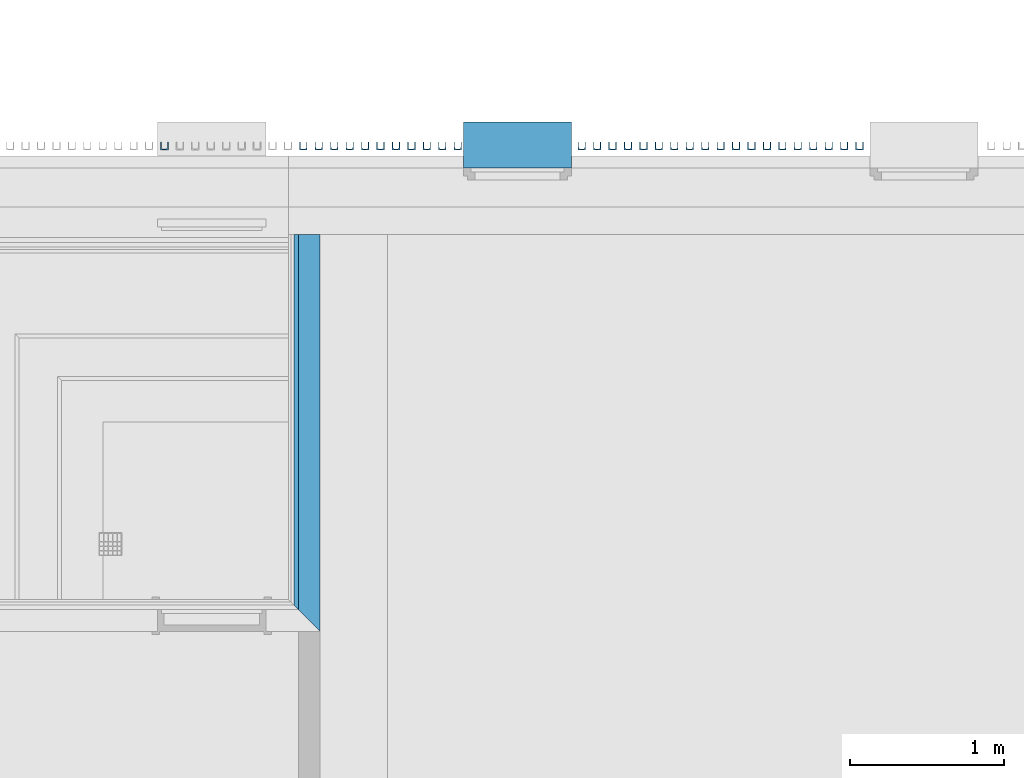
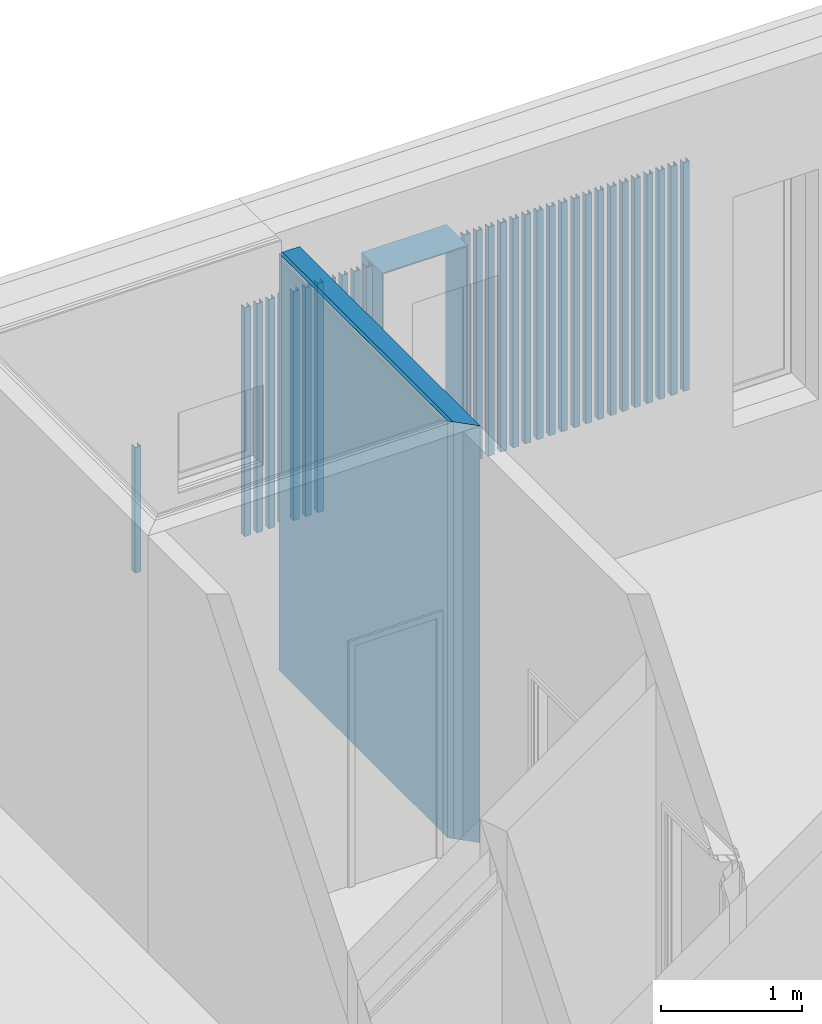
# One storey, part 28 of 100: 32 discrete accessories, 2 building element parts, 1 element without a shape of its own.
"""IFC2X3 building model written with IfcOpenShell, lengths in millimetres."""

import ifcopenshell
import ifcopenshell.guid

model = None  # the IFC model being written
_history = None  # IfcOwnerHistory: only IFC2X3 demands one
_inside = {}  # id of a spatial element -> (the spatial element, [elements in it])
_under = {}  # id of a project, library or spatial element -> (it, [spatial elements below it])
_declared = {}  # id of a project -> (the project, [libraries it declares])
_typed = {}  # id of a type object -> (the type object, [elements of that type])
_made_of = {}  # id of a material, layer set ... -> (it, [elements and type objects made of it])


def new_model(schema):
    """Start an empty IFC model of exactly this schema.

    Asked for "IFC4X3", IfcOpenShell would pick the latest addendum, in which some entities
    have other attributes; the version numbers below select the first issue.
    IFC2X3 requires an IfcOwnerHistory on every rooted entity: one is made here for all.
    """
    global model, _history
    if schema == "IFC4X3":
        model = ifcopenshell.file(schema_version=(4, 3, 0, 0))
    else:
        model = ifcopenshell.file(schema=schema)
    _inside.clear()
    _under.clear()
    _declared.clear()
    _typed.clear()
    _made_of.clear()
    _history = None
    if model.schema == "IFC2X3":
        org = make("IfcOrganization", Name="unknown")
        user = make(
            "IfcPersonAndOrganization",
            ThePerson=make("IfcPerson", FamilyName="unknown"),
            TheOrganization=org,
        )
        app = make(
            "IfcApplication",
            ApplicationDeveloper=org,
            Version="unknown",
            ApplicationFullName="unknown",
            ApplicationIdentifier="unknown",
        )
        _history = make(
            "IfcOwnerHistory",
            OwningUser=user,
            OwningApplication=app,
            ChangeAction="ADDED",
            CreationDate=0,
        )
    return model


def make(cls, **values):
    """One entity of the class cls with the attributes given. An attribute that is None is left unset."""
    return model.create_entity(
        cls, **{name: value for name, value in values.items() if value is not None}
    )


def entity(cls, *values):
    """Any entity or typed value of the class cls, its attributes in the order of the schema. None: left unset."""
    e = model.create_entity(cls)
    for i, value in enumerate(values):
        if value is not None:
            e[i] = value
    return e


def rooted(cls, **values):
    """An entity with a GlobalId (a new one), such as an element, a storey or a relation."""
    return make(cls, GlobalId=ifcopenshell.guid.new(), OwnerHistory=_history, **values)


def si_unit(unit_type, name, prefix=None):
    """IfcSIUnit, for example si_unit("LENGTHUNIT", "METRE", prefix="MILLI")."""
    return make("IfcSIUnit", UnitType=unit_type, Prefix=prefix, Name=name)


def converted_unit(unit_type, name, factor, base, dimensions=None, offset=None):
    """IfcConversionBasedUnit, such as the inch: factor (a typed value) times the base unit."""
    return make(
        "IfcConversionBasedUnit"
        if offset is None
        else "IfcConversionBasedUnitWithOffset",
        ConversionOffset=offset,
        Dimensions=None
        if dimensions is None
        else entity("IfcDimensionalExponents", *dimensions),
        UnitType=unit_type,
        Name=name,
        ConversionFactor=make(
            "IfcMeasureWithUnit", ValueComponent=factor, UnitComponent=base
        ),
    )


def derived_unit(unit_type, elements):
    """IfcDerivedUnit: a product of units, each with its exponent."""
    return make(
        "IfcDerivedUnit",
        Elements=[
            make("IfcDerivedUnitElement", Unit=unit, Exponent=power)
            for unit, power in elements
        ],
        UnitType=unit_type,
    )


def money_unit(currency):
    """IfcMonetaryUnit."""
    return make("IfcMonetaryUnit", Currency=currency)


def assignment(units):
    """IfcUnitAssignment: the units of a project."""
    return None if units is None else make("IfcUnitAssignment", Units=units)


def point(xyz):
    """IfcCartesianPoint."""
    return None if xyz is None else make("IfcCartesianPoint", Coordinates=xyz)


def direction(xyz):
    """IfcDirection."""
    return None if xyz is None else make("IfcDirection", DirectionRatios=xyz)


def frame(location, z_axis=None, x_axis=None):
    """IfcAxis2Placement3D, a coordinate frame: its origin and axes. An axis left out is left unset."""
    return make(
        "IfcAxis2Placement3D",
        Location=point(location),
        Axis=direction(z_axis),
        RefDirection=direction(x_axis),
    )


def origin_with_axes():
    """The frame at (0, 0, 0) with the z axis (0, 0, 1) and the x axis (1, 0, 0) written out."""
    return frame((0.0, 0.0, 0.0), z_axis=(0.0, 0.0, 1.0), x_axis=(1.0, 0.0, 0.0))


def place(relative_to, where):
    """IfcLocalPlacement: puts the frame where relative to a parent placement (None: the world)."""
    return make(
        "IfcLocalPlacement", PlacementRelTo=relative_to, RelativePlacement=where
    )


def context(
    kind, dimensions, precision=None, world=None, true_north=None, identifier=None
):
    """IfcGeometricRepresentationContext, for example the 3D "Model" context."""
    return make(
        "IfcGeometricRepresentationContext",
        ContextIdentifier=identifier,
        ContextType=kind,
        CoordinateSpaceDimension=dimensions,
        Precision=precision,
        WorldCoordinateSystem=world,
        TrueNorth=true_north,
    )


def subcontext(parent, identifier, kind, view, scale=None):
    """IfcGeometricRepresentationSubContext, for example "Body" below "Model"."""
    return make(
        "IfcGeometricRepresentationSubContext",
        ContextIdentifier=identifier,
        ContextType=kind,
        ParentContext=parent,
        TargetScale=scale,
        TargetView=view,
    )


def project(units=None, contexts=None):
    """IfcProject with its units and contexts."""
    return rooted(
        "IfcProject",
        Name="project",
        RepresentationContexts=contexts,
        UnitsInContext=assignment(units),
    )


def spatial(cls, under=None, at=None, **own):
    """A site, building, storey or space (cls), placed at a placement, below another one or the project."""
    s = rooted(cls, ObjectPlacement=at, **own)
    if under is not None:
        _under.setdefault(under.id(), (under, []))[1].append(s)
    return s


def polyline(points):
    """IfcPolyline through the points."""
    return make("IfcPolyline", Points=[point(p) for p in points])


def outline(outer, holes=None, kind="AREA"):
    """IfcArbitraryClosedProfileDef: a profile drawn as a closed curve; with holes, ...WithVoids."""
    if holes is None:
        return make("IfcArbitraryClosedProfileDef", ProfileType=kind, OuterCurve=outer)
    return make(
        "IfcArbitraryProfileDefWithVoids",
        ProfileType=kind,
        OuterCurve=outer,
        InnerCurves=holes,
    )


def extrude(swept, where, along, depth):
    """IfcExtrudedAreaSolid: the profile swept, set in the frame where, extruded along a direction by depth."""
    return make(
        "IfcExtrudedAreaSolid",
        SweptArea=swept,
        Position=where,
        ExtrudedDirection=direction(along),
        Depth=depth,
    )


def faces_of(points, faces, orient=None, outer=None):
    """IfcFace entities. A face is a list of loops; a loop is a list of indices into points, from 0.

    orient and outer hold one flag for each loop. By default every Orientation is true, the
    first loop of a face is its IfcFaceOuterBound and the others are IfcFaceBound.
    """
    made = []
    for i, loops in enumerate(faces):
        bounds = []
        for j, loop in enumerate(loops):
            is_outer = j == 0 if outer is None else outer[i][j]
            bounds.append(
                make(
                    "IfcFaceOuterBound" if is_outer else "IfcFaceBound",
                    Bound=make("IfcPolyLoop", Polygon=[points[k] for k in loop]),
                    Orientation=True if orient is None else orient[i][j],
                )
            )
        made.append(make("IfcFace", Bounds=bounds))
    return made


def faceted_brep(points, faces, orient=None, outer=None, voids=None):
    """IfcFacetedBrep: a solid bounded by flat faces; with voids (closed shells), ...WithVoids."""
    shared = [point(p) for p in points]
    hull = make("IfcClosedShell", CfsFaces=faces_of(shared, faces, orient, outer))
    if voids is None:
        return make("IfcFacetedBrep", Outer=hull)
    return make(
        "IfcFacetedBrepWithVoids",
        Outer=hull,
        Voids=[
            make(cls, CfsFaces=faces_of(shared, fs, o, b)) for cls, fs, o, b in voids
        ],
    )


def shape(context_of_items, identifier, shape_type, items):
    """IfcShapeRepresentation: the items that make up one representation, for example the "Body"."""
    return make(
        "IfcShapeRepresentation",
        ContextOfItems=context_of_items,
        RepresentationIdentifier=identifier,
        RepresentationType=shape_type,
        Items=items,
    )


def source(mapping_origin, context_of_items, identifier, shape_type, items):
    """IfcRepresentationMap: a shape defined once, which mapped items show again and again."""
    return make(
        "IfcRepresentationMap",
        MappingOrigin=mapping_origin,
        MappedRepresentation=shape(context_of_items, identifier, shape_type, items),
    )


def transform(
    local_origin,
    x_axis=None,
    y_axis=None,
    z_axis=None,
    scale=None,
    scale2=None,
    scale3=None,
    uniform=True,
):
    """IfcCartesianTransformationOperator3D, or its non-uniform kind. x_axis, y_axis, z_axis: its Axis1, 2, 3."""
    if uniform:
        return make(
            "IfcCartesianTransformationOperator3D",
            Axis1=direction(x_axis),
            Axis2=direction(y_axis),
            LocalOrigin=point(local_origin),
            Scale=scale,
            Axis3=direction(z_axis),
        )
    return make(
        "IfcCartesianTransformationOperator3DnonUniform",
        Axis1=direction(x_axis),
        Axis2=direction(y_axis),
        LocalOrigin=point(local_origin),
        Scale=scale,
        Axis3=direction(z_axis),
        Scale2=scale2,
        Scale3=scale3,
    )


def mapped(mapping_source, mapping_target):
    """IfcMappedItem: shows the shape of a source again, moved by a transform."""
    return make(
        "IfcMappedItem", MappingSource=mapping_source, MappingTarget=mapping_target
    )


def material(Name=None, Category=None):
    """IfcMaterial."""
    return make("IfcMaterial", Name=Name, Category=Category)


def made_of(thing, what):
    """Note that an element or type object is made of a material, layer set ...; save() writes the relation."""
    if what is not None:
        _made_of.setdefault(what.id(), (what, []))[1].append(thing)
    return thing


def type_object(cls, material=None, **own):
    """A type object (cls), such as IfcWallType, which elements share."""
    return made_of(rooted(cls, **own), material)


def element(
    cls,
    number,
    at=None,
    inside=None,
    cuts=None,
    type_object=None,
    material=None,
    context=None,
    identifier="Body",
    shape_type=None,
    held_by="IfcProductDefinitionShape",
    body=None,
    shapes=None,
    **own,
):
    """One element of the class cls, such as IfcWall. Its Tag is "e" and its number.

    at: its placement. inside: the storey or other place that contains it. cuts: it is an
    opening in that element (IfcRelVoidsElement). A single representation is given by context,
    identifier, shape_type and body (its items); several are given by shapes. held_by: the class
    of the entity that holds the representations. save() writes the other relations.
    """
    e = rooted(cls, Tag="e%d" % number, ObjectPlacement=at, **own)
    if body is not None:
        shapes = [shape(context, identifier, shape_type, body)]
    if shapes is not None:
        e.Representation = make(held_by, Representations=shapes)
    if inside is not None:
        _inside.setdefault(inside.id(), (inside, []))[1].append(e)
    if cuts is not None:
        rooted(
            "IfcRelVoidsElement", RelatingBuildingElement=cuts, RelatedOpeningElement=e
        )
    if type_object is not None:
        _typed.setdefault(type_object.id(), (type_object, []))[1].append(e)
    return made_of(e, material)


def aggregate(whole, parts):
    """IfcRelAggregates: a whole, such as a stair, and the parts it consists of."""
    return rooted("IfcRelAggregates", RelatingObject=whole, RelatedObjects=parts)


def save(model, path):
    """Write the relations noted so far, then the file.

    IfcRelAggregates (storeys below a building ...), IfcRelContainedInSpatialStructure (elements
    in a storey), IfcRelDefinesByType, IfcRelAssociatesMaterial and IfcRelDeclares: one each for
    every whole, place, type object, material and project.
    """
    for whole, parts in _under.values():
        aggregate(whole, parts)
    for where, things in _inside.values():
        rooted(
            "IfcRelContainedInSpatialStructure",
            RelatedElements=things,
            RelatingStructure=where,
        )
    for kind, things in _typed.values():
        rooted("IfcRelDefinesByType", RelatedObjects=things, RelatingType=kind)
    for what, things in _made_of.values():
        rooted("IfcRelAssociatesMaterial", RelatedObjects=things, RelatingMaterial=what)
    for by, libraries in _declared.values():
        rooted("IfcRelDeclares", RelatingContext=by, RelatedDefinitions=libraries)
    model.write(path)


model = new_model("IFC2X3")

# Units and contexts
model_context = context("Model", 3, precision=0.01, world=origin_with_axes(), true_north=direction((0.0, 1.0)))
body_context = subcontext(model_context, "Body", "Model", "MODEL_VIEW")
ifc_project = project(units=[si_unit("LENGTHUNIT", "METRE", prefix="MILLI"), si_unit("AREAUNIT", "SQUARE_METRE"), si_unit("VOLUMEUNIT", "CUBIC_METRE"), converted_unit("PLANEANGLEUNIT", "DEGREE", entity("IfcPlaneAngleMeasure", 0.0174532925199), si_unit("PLANEANGLEUNIT", "RADIAN"), dimensions=[0, 0, 0, 0, 0, 0, 0]), si_unit("SOLIDANGLEUNIT", "STERADIAN"), money_unit("EUR"), converted_unit("TIMEUNIT", "Year", entity("IfcTimeMeasure", 31556926.0), si_unit("TIMEUNIT", "SECOND"), dimensions=[0, 0, 1, 0, 0, 0, 0]), si_unit("MASSUNIT", "GRAM", prefix="KILO"), si_unit("THERMODYNAMICTEMPERATUREUNIT", "DEGREE_CELSIUS"), si_unit("LUMINOUSINTENSITYUNIT", "LUMEN"), si_unit("ENERGYUNIT", "JOULE", prefix="MEGA"), derived_unit("THERMALCONDUCTANCEUNIT", [(si_unit("POWERUNIT", "WATT"), 1), (si_unit("LENGTHUNIT", "METRE"), -1), (si_unit("THERMODYNAMICTEMPERATUREUNIT", "KELVIN"), -1)]), derived_unit("SPECIFICHEATCAPACITYUNIT", [(si_unit("ENERGYUNIT", "JOULE"), 1), (si_unit("MASSUNIT", "GRAM", prefix="KILO"), -1), (si_unit("THERMODYNAMICTEMPERATUREUNIT", "KELVIN"), -1)]), derived_unit("MASSDENSITYUNIT", [(si_unit("MASSUNIT", "GRAM", prefix="KILO"), 1), (si_unit("VOLUMEUNIT", "CUBIC_METRE"), -1)])], contexts=[model_context])

# Site, building, storey
site_placement = place(None, origin_with_axes())
site = spatial("IfcSite", under=ifc_project, at=site_placement, Name="Politse- ja Piirivalveameti ning Päästeameti ühishoone", CompositionType="ELEMENT")
building_placement = place(site_placement, origin_with_axes())
building = spatial("IfcBuilding", under=site, at=building_placement, Name="Politse- ja Piirivalveameti ning Päästeameti ühishoone", CompositionType="ELEMENT")
storey_placement = place(building_placement, frame((0.0, 0.0, 3800.0), z_axis=(0.0, 0.0, 1.0), x_axis=(1.0, 0.0, 0.0)))
storey = spatial("IfcBuildingStorey", under=building, at=storey_placement, Name="Teine korrus", CompositionType="ELEMENT", Elevation=3800.0)

# Discrete accessories
ifc_material_1 = material(Name="SV-01_Krohv - Kips")
discrete_accessory_type_1 = type_object("IfcDiscreteAccessoryType", Name="Architrave 01 23")
shared_shape_1 = source(origin_with_axes(), body_context, "Body", "Brep", [
    faceted_brep([(350.0, 0.0, -10.0), (350.0, -300.182356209, -10.0), (-350.0, -300.182356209, -10.0), (-350.0, 0.0, -10.0), (340.0, 0.0, 0.0), (340.0, -300.182356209, 0.0), (-340.0, -300.182356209, 0.0), (-340.0, 0.0, 0.0)], [[[0, 1, 2, 3]], [[4, 5, 1, 0]], [[1, 5, 6, 2]], [[3, 2, 6, 7]], [[0, 3, 7, 4]], [[7, 6, 5, 4]]]),
    faceted_brep([(-350.0, 0.0, -10.0), (-350.0, -300.182356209, -10.0), (-350.0, -300.182356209, 1990.0), (-350.0, 0.0, 1990.0), (-340.0, 0.0, 0.0), (-340.0, -300.182356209, 0.0), (-340.0, -300.182356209, 1980.0), (-340.0, 0.0, 1980.0)], [[[0, 1, 2, 3]], [[4, 5, 1, 0]], [[1, 5, 6, 2]], [[3, 2, 6, 7]], [[0, 3, 7, 4]], [[7, 6, 5, 4]]]),
    faceted_brep([(-350.0, 0.0, 1990.0), (-350.0, -300.182356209, 1990.0), (350.0, -300.182356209, 1990.0), (350.0, 0.0, 1990.0), (-340.0, 0.0, 1980.0), (-340.0, -300.182356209, 1980.0), (340.0, -300.182356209, 1980.0), (340.0, 0.0, 1980.0)], [[[0, 1, 2, 3]], [[4, 5, 1, 0]], [[1, 5, 6, 2]], [[3, 2, 6, 7]], [[0, 3, 7, 4]], [[7, 6, 5, 4]]]),
    faceted_brep([(350.0, 0.0, 1990.0), (350.0, -300.182356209, 1990.0), (350.0, -300.182356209, -10.0), (350.0, 0.0, -10.0), (340.0, 0.0, 1980.0), (340.0, -300.182356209, 1980.0), (340.0, -300.182356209, 0.0), (340.0, 0.0, 0.0)], [[[0, 1, 2, 3]], [[4, 5, 1, 0]], [[1, 5, 6, 2]], [[3, 2, 6, 7]], [[0, 3, 7, 4]], [[7, 6, 5, 4]]]),
])
discrete_accessory_1_placement = place(storey_placement, frame((47051.9647298, 21429.9520134, 810.0), z_axis=(0.0, 0.0, 1.0), x_axis=(-1.0, 0.0, 0.0)))
element("IfcDiscreteAccessory", 1, at=discrete_accessory_1_placement, inside=storey, type_object=discrete_accessory_type_1, material=ifc_material_1, Name="AKNARAAM 01", context=body_context, shape_type="MappedRepresentation", body=[
    mapped(shared_shape_1, transform((0.0, 0.0, 0.0))),
])
ifc_material_2 = material(Name="ET-05_Teras")
discrete_accessory_type_2 = type_object("IfcDiscreteAccessoryType", Name="UAP Column 23")
shared_shape_2 = source(origin_with_axes(), body_context, "Body", "Brep", [
    faceted_brep([(-25.0, -25.0, 0.0), (-25.0, -25.0, 1990.0), (-25.0, -20.0, 1990.0), (-25.0, -20.0, 0.0), (25.0, -25.0, 0.0), (25.0, -25.0, 1990.0), (25.0, 25.0, 1990.0), (-25.0, 25.0, 1990.0), (-25.0, 20.0, 1990.0), (8.5, 20.0, 1990.0), (14.25, 18.4592921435, 1990.0), (18.4592921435, 14.25, 1990.0), (20.0, 8.5, 1990.0), (20.0, -8.5, 1990.0), (18.4592921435, -14.25, 1990.0), (14.25, -18.4592921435, 1990.0), (8.5, -20.0, 1990.0), (8.5, -20.0, 0.0), (14.25, -18.4592921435, 0.0), (18.4592921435, -14.25, 0.0), (20.0, -8.5, 0.0), (20.0, 8.5, 0.0), (18.4592921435, 14.25, 0.0), (14.25, 18.4592921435, 0.0), (8.5, 20.0, 0.0), (-25.0, 20.0, 0.0), (-25.0, 25.0, 0.0), (25.0, 25.0, 0.0)], [[[0, 1, 2, 3]], [[4, 5, 1, 0]], [[1, 5, 6, 7, 8, 9, 10, 11, 12, 13, 14, 15, 16, 2]], [[3, 2, 16, 17]], [[0, 3, 17, 18, 19, 20, 21, 22, 23, 24, 25, 26, 27, 4]], [[27, 6, 5, 4]], [[26, 7, 6, 27]], [[25, 8, 7, 26]], [[24, 9, 8, 25]], [[23, 10, 9, 24]], [[22, 11, 10, 23]], [[21, 12, 11, 22]], [[20, 13, 12, 21]], [[19, 14, 13, 20]], [[18, 15, 14, 19]], [[17, 16, 15, 18]]]),
])
for number, where, z_axis, x_axis in (
    (2, (48967.9647265, 21574.5962075, 810.000049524), (0.0, 0.0, 1.0), (1.30049800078e-07, -1.0, 0.0)),
    (3, (49067.9647265, 21574.5962205, 810.000049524), (0.0, 0.0, 1.0), (1.30049800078e-07, -1.0, 0.0)),
    (4, (49167.9647265, 21574.5962336, 810.000049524), (0.0, 0.0, 1.0), (1.30049800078e-07, -1.0, 0.0)),
    (5, (48567.9647265, 21574.5961555, 810.000049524), (0.0, 0.0, 1.0), (1.30049800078e-07, -1.0, 0.0)),
    (6, (48667.9647265, 21574.5961685, 810.000049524), (0.0, 0.0, 1.0), (1.30049800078e-07, -1.0, 0.0)),
    (7, (48767.9647265, 21574.5961815, 810.000049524), (0.0, 0.0, 1.0), (1.30049800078e-07, -1.0, 0.0)),
    (8, (48867.9647265, 21574.5961945, 810.000049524), (0.0, 0.0, 1.0), (1.30049800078e-07, -1.0, 0.0)),
    (9, (48267.9647265, 21574.5961165, 810.000049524), (0.0, 0.0, 1.0), (1.30049800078e-07, -1.0, 0.0)),
    (10, (48367.9647265, 21574.5961295, 810.000049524), (0.0, 0.0, 1.0), (1.30049800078e-07, -1.0, 0.0)),
    (11, (48467.9647265, 21574.5961425, 810.000049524), (0.0, 0.0, 1.0), (1.30049800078e-07, -1.0, 0.0)),
    (12, (47967.9647265, 21574.5960775, 810.000049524), (0.0, 0.0, 1.0), (1.30049800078e-07, -1.0, 0.0)),
    (13, (48067.9647265, 21574.5960905, 810.000049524), (0.0, 0.0, 1.0), (1.30049800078e-07, -1.0, 0.0)),
    (14, (48167.9647265, 21574.5961035, 810.000049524), (0.0, 0.0, 1.0), (1.30049800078e-07, -1.0, 0.0)),
    (15, (47667.9647265, 21574.5960385, 810.000049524), (0.0, 0.0, 1.0), (1.30049800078e-07, -1.0, 0.0)),
    (16, (47767.9647265, 21574.5960515, 810.000049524), (0.0, 0.0, 1.0), (1.30049800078e-07, -1.0, 0.0)),
    (17, (47867.9647265, 21574.5960645, 810.000049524), (0.0, 0.0, 1.0), (1.30049800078e-07, -1.0, 0.0)),
    (18, (47467.9647265, 21574.5960125, 810.000049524), (0.0, 0.0, 1.0), (1.30049800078e-07, -1.0, 0.0)),
    (19, (47567.9647265, 21574.5960255, 810.000049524), (0.0, 0.0, 1.0), (1.30049800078e-07, -1.0, 0.0)),
    (20, (49267.9647265, 21574.5962466, 810.000049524), (0.0, 0.0, 1.0), (1.30049800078e-07, -1.0, 0.0)),
    (21, (46264.9647265, 21574.5962075, 810.000049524), (0.0, 0.0, 1.0), (1.30049800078e-07, -1.0, 0.0)),
    (22, (46364.9647265, 21574.5962205, 810.000049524), (0.0, 0.0, 1.0), (1.30049800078e-07, -1.0, 0.0)),
    (23, (46464.9647265, 21574.5962336, 810.000049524), (0.0, 0.0, 1.0), (1.30049800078e-07, -1.0, 0.0)),
    (24, (45864.9647265, 21574.5961555, 810.000049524), (0.0, 0.0, 1.0), (1.30049800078e-07, -1.0, 0.0)),
    (25, (45964.9647265, 21574.5961685, 810.000049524), (0.0, 0.0, 1.0), (1.30049800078e-07, -1.0, 0.0)),
    (26, (46064.9647265, 21574.5961815, 810.000049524), (0.0, 0.0, 1.0), (1.30049800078e-07, -1.0, 0.0)),
    (27, (46164.9647265, 21574.5961945, 810.000049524), (0.0, 0.0, 1.0), (1.30049800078e-07, -1.0, 0.0)),
    (28, (45664.9647265, 21574.5961295, 810.000049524), (0.0, 0.0, 1.0), (1.30049800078e-07, -1.0, 0.0)),
    (29, (45764.9647265, 21574.5961425, 810.000049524), (0.0, 0.0, 1.0), (1.30049800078e-07, -1.0, 0.0)),
    (30, (46564.9647265, 21574.5962466, 810.000049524), (0.0, 0.0, 1.0), (1.30049800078e-07, -1.0, 0.0)),
    (31, (46664.9647265, 21574.5962596, 810.000049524), (0.0, 0.0, 1.0), (1.30049800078e-07, -1.0, 0.0)),
):
    element("IfcDiscreteAccessory", number, at=place(storey_placement, frame(where, z_axis=z_axis, x_axis=x_axis)), inside=storey, type_object=discrete_accessory_type_2, material=ifc_material_2, Name="Fassaadiribid", context=body_context, shape_type="MappedRepresentation", body=[
        mapped(shared_shape_2, transform((0.0, 0.0, 0.0))),
    ])
shared_shape_3 = source(origin_with_axes(), body_context, "Body", "Brep", [
    faceted_brep([(-25.0, -25.0, 0.0), (-25.0, -25.0, 1089.99995048), (-25.0, -20.0, 1089.99995048), (-25.0, -20.0, 0.0), (25.0, -25.0, 0.0), (25.0, -25.0, 1089.99995048), (25.0, 25.0, 1089.99995048), (-25.0, 25.0, 1089.99995048), (-25.0, 20.0, 1089.99995048), (8.5, 20.0, 1089.99995048), (14.25, 18.4592921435, 1089.99995048), (18.4592921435, 14.25, 1089.99995048), (20.0, 8.5, 1089.99995048), (20.0, -8.5, 1089.99995048), (18.4592921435, -14.25, 1089.99995048), (14.25, -18.4592921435, 1089.99995048), (8.5, -20.0, 1089.99995048), (8.5, -20.0, 0.0), (14.25, -18.4592921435, 0.0), (18.4592921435, -14.25, 0.0), (20.0, -8.5, 0.0), (20.0, 8.5, 0.0), (18.4592921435, 14.25, 0.0), (14.25, 18.4592921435, 0.0), (8.5, 20.0, 0.0), (-25.0, 20.0, 0.0), (-25.0, 25.0, 0.0), (25.0, 25.0, 0.0)], [[[0, 1, 2, 3]], [[4, 5, 1, 0]], [[1, 5, 6, 7, 8, 9, 10, 11, 12, 13, 14, 15, 16, 2]], [[3, 2, 16, 17]], [[0, 3, 17, 18, 19, 20, 21, 22, 23, 24, 25, 26, 27, 4]], [[27, 6, 5, 4]], [[26, 7, 6, 27]], [[25, 8, 7, 26]], [[24, 9, 8, 25]], [[23, 10, 9, 24]], [[22, 11, 10, 23]], [[21, 12, 11, 22]], [[20, 13, 12, 21]], [[19, 14, 13, 20]], [[18, 15, 14, 19]], [[17, 16, 15, 18]]]),
])
discrete_accessory_2_placement = place(storey_placement, frame((44764.9647265, 21574.5960255, 810.000049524), z_axis=(0.0, 0.0, 1.0), x_axis=(1.30049800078e-07, -1.0, 0.0)))
element("IfcDiscreteAccessory", 32, at=discrete_accessory_2_placement, inside=storey, type_object=discrete_accessory_type_2, material=ifc_material_2, Name="Fassaadiribid", context=body_context, shape_type="MappedRepresentation", body=[
    mapped(shared_shape_3, transform((0.0, 0.0, 0.0))),
])

# Wall, building element parts
wall_type = type_object("IfcWallType", Name="SS-07_Sisesein - leiliruum 205", PredefinedType="NOTDEFINED")
wall_placement = place(storey_placement, frame((45773.4114692, 20999.9035368, 0.0), z_axis=(0.0, 0.0, 1.0), x_axis=(0.0, -1.0, 0.0)))
wall = element("IfcWall", 33, at=wall_placement, inside=storey, type_object=wall_type, Name="SS-07")
ifc_material_3 = material(Name="SOJ-02_Soojustus - Fiiber Kõva")
building_element_part_1_placement = place(wall_placement, origin_with_axes())
building_element_part_1 = element("IfcBuildingElementPart", 34, at=building_element_part_1_placement, material=ifc_material_3, Name="SOJ-02_Soojustus - Fiiber Kõva", context=body_context, shape_type="SweptSolid", body=[
    extrude(outline(polyline([(0.0, -170.0), (2399.86138396, -170.0), (2429.86138396, -140.0), (0.0, -140.0), (0.0, -170.0)])), origin_with_axes(), (0.0, 0.0, 1.0), 3620.0),
])
ifc_material_4 = material(Name="KON-05_Betoon Plokk - Konstuktsioon")
building_element_part_2_placement = place(wall_placement, origin_with_axes())
building_element_part_2 = element("IfcBuildingElementPart", 35, at=building_element_part_2_placement, material=ifc_material_4, Name="KON-05_Betoon Plokk - Konstuktsioon", context=body_context, shape_type="SweptSolid", body=[
    extrude(outline(polyline([(0.0, -140.0), (2429.86138396, -140.0), (2569.86138396, 0.0), (0.0, 0.0), (0.0, -140.0)])), origin_with_axes(), (0.0, 0.0, 1.0), 3620.0),
])
aggregate(wall, [building_element_part_1, building_element_part_2])

save(model, "model.ifc")
